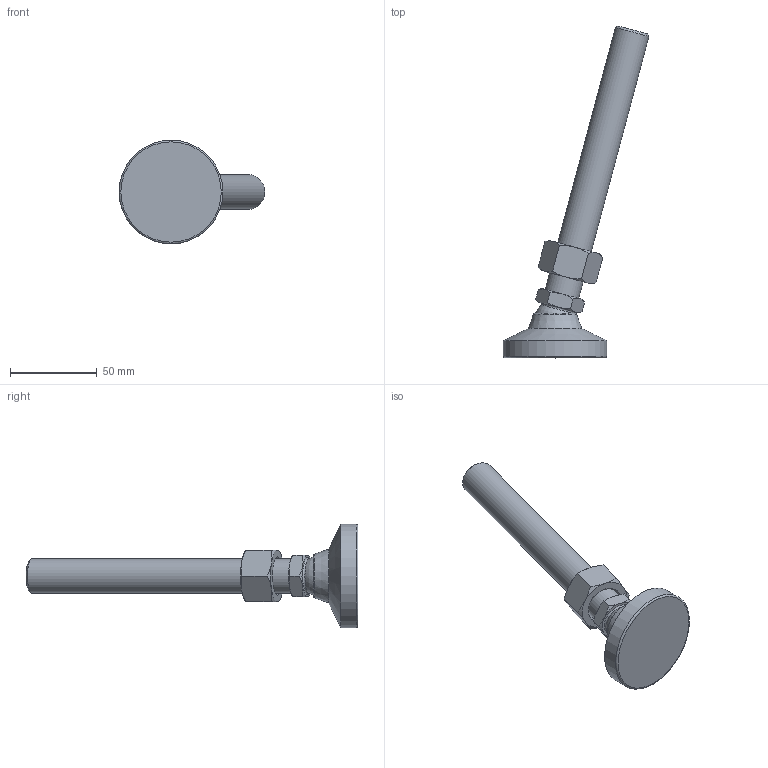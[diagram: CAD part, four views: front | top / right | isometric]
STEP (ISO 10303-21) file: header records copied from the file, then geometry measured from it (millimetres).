
FILE_DESCRIPTION( ( 'STEP AP214' ), ' ' );
FILE_NAME( 'O:/ganter_2015/teil_2/2_5/gn343_2/gn343_2_kr/Levelling foot with threaded stud GN 343.2-60-M20-158-KR-(-15).stp', '2015-10-26T09:14:44', ( '' ), ( '' ), ' ', 'PARTsolutions', ' ' );
FILE_SCHEMA( ( 'AUTOMOTIVE_DESIGN { 1 0 10303 214 1 1 1 1 }' ) );
Length unit declared in the file: millimetre
Products named in the file (4): Levelling foot with threaded stud GN 343.2-60-M20-158-KR-(-15); _Levelling foot with threaded stud GN 343.2-60-M20-158-KR-(-15)_foot; _Levelling foot with threaded stud GN 343.2-60-M20-158-KR-(-15)_screw; _Levelling foot with threaded stud GN 343.2-60-M20-158-KR-(-15)_nut
Assembly tree (3 placements, depth 2):
  Levelling foot with threaded stud GN 343.2-60-M20-158-KR-(-15)
    _Levelling foot with threaded stud GN 343.2-60-M20-158-KR-(-15)_foot
    _Levelling foot with threaded stud GN 343.2-60-M20-158-KR-(-15)_screw
    _Levelling foot with threaded stud GN 343.2-60-M20-158-KR-(-15)_nut
Bounding box: 84.24 x 191.87 x 60 mm (x, y, z)
Volume: 109757.1 mm3; surface area: 25301.2 mm2
Topology: 3 solids, 3 shells, 56 faces, 117 edges, 68 vertices
Faces by surface type: cone 29, plane 19, torus 3, cylinder 3, sphere 2
Full cylindrical faces by diameter (mm): 17.294 x1, 20 x1, 60 x1
Entity records: 2090 total; most frequent: CARTESIAN_POINT 522, DIRECTION 212, ORIENTED_EDGE 200, AXIS2_PLACEMENT_3D 100, EDGE_CURVE 100, EDGE_LOOP 72, VERTEX_POINT 66, FACE_OUTER_BOUND 62
